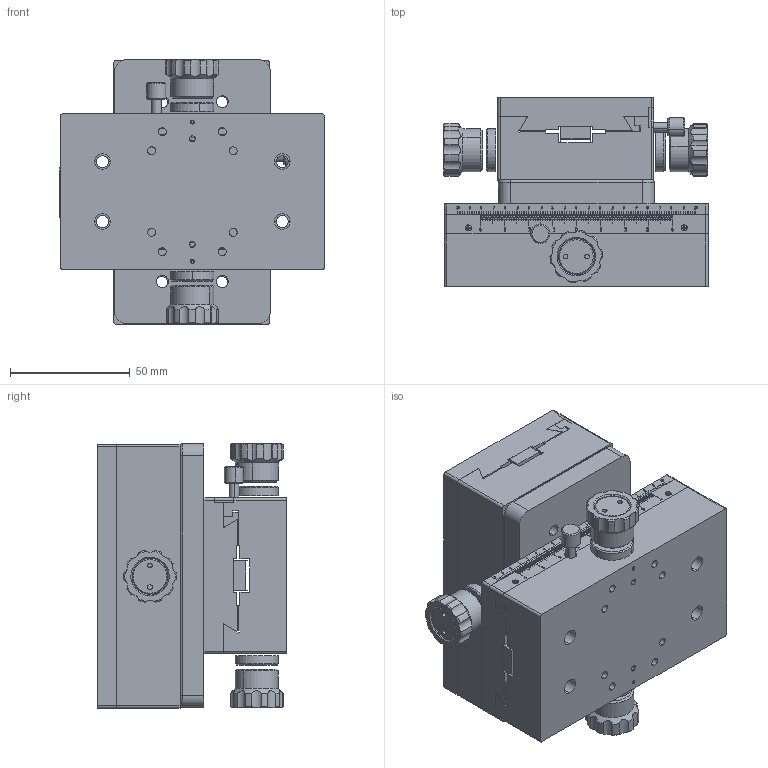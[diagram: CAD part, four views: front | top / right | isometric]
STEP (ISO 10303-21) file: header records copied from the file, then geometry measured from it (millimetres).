
FILE_DESCRIPTION (( 'STEP AP203' ), '1' );
FILE_NAME ('7SAM205郪磁弇痄怢.STEP', '2019-10-12T02:55:56', ( '' ), ( '' ), 'SwSTEP 2.0', 'SolidWorks 2014', '' );
FILE_SCHEMA (( 'CONFIG_CONTROL_DESIGN' ));
Products named in the file (1): 7SAM205郪磁弇痄怢
Bounding box: 110.3 x 79 x 110.3 mm (x, y, z)
Surface area: 113462.4 mm2 (no closed solid volume)
Topology: 0 solids, 66 shells, 910 faces, 7506 edges, 6219 vertices
Faces by surface type: plane 436, cylinder 301, cone 100, bspline 49, torus 16, sphere 8
Entity records: 81204 total; most frequent: CARTESIAN_POINT 28486, DIRECTION 9723, ORIENTED_EDGE 9704, EDGE_CURVE 7494, VERTEX_POINT 6219, LINE 6001, VECTOR 6001, AXIS2_PLACEMENT_3D 1861
